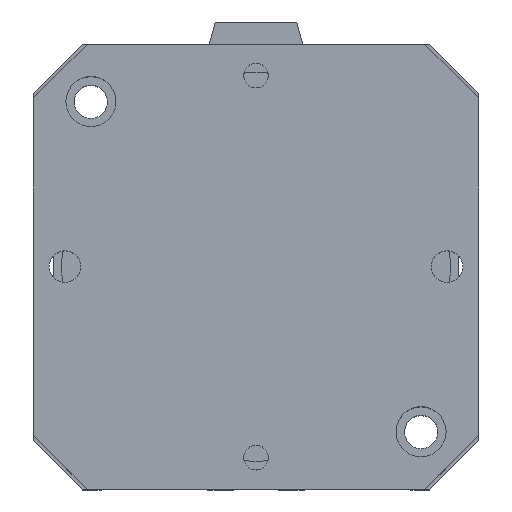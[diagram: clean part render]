
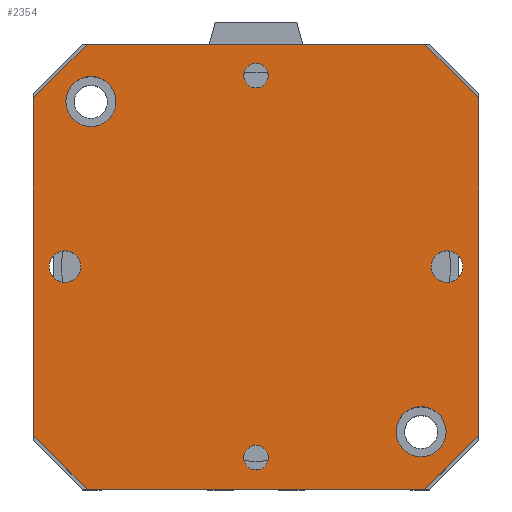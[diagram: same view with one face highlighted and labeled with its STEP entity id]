
A CAD part, top view. The second image highlights one B-rep face of the part: STEP entity #2354.
In plain terms, the highlighted planar face has unit normal (0, 0, 1).
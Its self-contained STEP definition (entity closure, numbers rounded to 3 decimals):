
#221=LINE('',#3869,#429);
#223=LINE('',#3873,#431);
#225=LINE('',#3877,#433);
#227=LINE('',#3881,#435);
#229=LINE('',#3885,#437);
#231=LINE('',#3889,#439);
#233=LINE('',#3893,#441);
#235=LINE('',#3896,#443);
#429=VECTOR('',#3196,91.);
#431=VECTOR('',#3200,20.506);
#433=VECTOR('',#3204,91.);
#435=VECTOR('',#3208,20.506);
#437=VECTOR('',#3212,91.);
#439=VECTOR('',#3216,20.506);
#441=VECTOR('',#3220,91.);
#443=VECTOR('',#3224,20.506);
#537=PLANE('',#2580);
#626=FACE_BOUND('',#956,.T.);
#627=FACE_BOUND('',#957,.T.);
#628=FACE_BOUND('',#958,.T.);
#629=FACE_BOUND('',#959,.T.);
#630=FACE_BOUND('',#960,.T.);
#631=FACE_BOUND('',#961,.T.);
#632=FACE_BOUND('',#962,.T.);
#956=EDGE_LOOP('',(#2134));
#957=EDGE_LOOP('',(#2135));
#958=EDGE_LOOP('',(#2136));
#959=EDGE_LOOP('',(#2137));
#960=EDGE_LOOP('',(#2138));
#961=EDGE_LOOP('',(#2139));
#962=EDGE_LOOP('',(#2140,#2141,#2142,#2143,#2144,#2145,#2146,#2147));
#1035=CIRCLE('',#2536,3.324);
#1037=CIRCLE('',#2539,3.324);
#1042=CIRCLE('',#2547,4.25);
#1046=CIRCLE('',#2554,4.25);
#1055=CIRCLE('',#2569,6.75);
#1056=CIRCLE('',#2571,6.75);
#1235=VERTEX_POINT('',#3787);
#1237=VERTEX_POINT('',#3792);
#1242=VERTEX_POINT('',#3805);
#1246=VERTEX_POINT('',#3816);
#1265=VERTEX_POINT('',#3860);
#1266=VERTEX_POINT('',#3863);
#1267=VERTEX_POINT('',#3866);
#1268=VERTEX_POINT('',#3868);
#1269=VERTEX_POINT('',#3872);
#1270=VERTEX_POINT('',#3876);
#1271=VERTEX_POINT('',#3880);
#1272=VERTEX_POINT('',#3884);
#1273=VERTEX_POINT('',#3888);
#1274=VERTEX_POINT('',#3892);
#1521=EDGE_CURVE('',#1235,#1235,#1035,.T.);
#1523=EDGE_CURVE('',#1237,#1237,#1037,.T.);
#1528=EDGE_CURVE('',#1242,#1242,#1042,.T.);
#1532=EDGE_CURVE('',#1246,#1246,#1046,.T.);
#1551=EDGE_CURVE('',#1265,#1265,#1055,.T.);
#1552=EDGE_CURVE('',#1266,#1266,#1056,.T.);
#1554=EDGE_CURVE('',#1268,#1267,#221,.T.);
#1556=EDGE_CURVE('',#1269,#1268,#223,.T.);
#1558=EDGE_CURVE('',#1270,#1269,#225,.T.);
#1560=EDGE_CURVE('',#1271,#1270,#227,.T.);
#1562=EDGE_CURVE('',#1272,#1271,#229,.T.);
#1564=EDGE_CURVE('',#1273,#1272,#231,.T.);
#1566=EDGE_CURVE('',#1274,#1273,#233,.T.);
#1568=EDGE_CURVE('',#1267,#1274,#235,.T.);
#2134=ORIENTED_EDGE('',*,*,#1521,.T.);
#2135=ORIENTED_EDGE('',*,*,#1523,.T.);
#2136=ORIENTED_EDGE('',*,*,#1528,.T.);
#2137=ORIENTED_EDGE('',*,*,#1532,.T.);
#2138=ORIENTED_EDGE('',*,*,#1551,.T.);
#2139=ORIENTED_EDGE('',*,*,#1552,.T.);
#2140=ORIENTED_EDGE('',*,*,#1568,.T.);
#2141=ORIENTED_EDGE('',*,*,#1566,.T.);
#2142=ORIENTED_EDGE('',*,*,#1564,.T.);
#2143=ORIENTED_EDGE('',*,*,#1562,.T.);
#2144=ORIENTED_EDGE('',*,*,#1560,.T.);
#2145=ORIENTED_EDGE('',*,*,#1558,.T.);
#2146=ORIENTED_EDGE('',*,*,#1556,.T.);
#2147=ORIENTED_EDGE('',*,*,#1554,.T.);
#2354=ADVANCED_FACE('',(#626,#627,#628,#629,#630,#631,#632),#537,.T.);
#2536=AXIS2_PLACEMENT_3D('',#3788,#3111,#3112);
#2539=AXIS2_PLACEMENT_3D('',#3793,#3117,#3118);
#2547=AXIS2_PLACEMENT_3D('',#3806,#3133,#3134);
#2554=AXIS2_PLACEMENT_3D('',#3817,#3147,#3148);
#2569=AXIS2_PLACEMENT_3D('',#3861,#3187,#3188);
#2571=AXIS2_PLACEMENT_3D('',#3864,#3191,#3192);
#2580=AXIS2_PLACEMENT_3D('',#3897,#3225,#3226);
#3111=DIRECTION('center_axis',(0.,0.,-1.));
#3112=DIRECTION('ref_axis',(1.,0.,0.));
#3117=DIRECTION('center_axis',(0.,0.,-1.));
#3118=DIRECTION('ref_axis',(1.,0.,0.));
#3133=DIRECTION('center_axis',(0.,0.,-1.));
#3134=DIRECTION('ref_axis',(1.,0.,0.));
#3147=DIRECTION('center_axis',(0.,0.,-1.));
#3148=DIRECTION('ref_axis',(1.,0.,0.));
#3187=DIRECTION('center_axis',(0.,0.,-1.));
#3188=DIRECTION('ref_axis',(-1.,0.,0.));
#3191=DIRECTION('center_axis',(0.,0.,-1.));
#3192=DIRECTION('ref_axis',(-1.,0.,0.));
#3196=DIRECTION('',(0.,1.,0.));
#3200=DIRECTION('',(0.707,0.707,0.));
#3204=DIRECTION('',(1.,0.,0.));
#3208=DIRECTION('',(0.707,-0.707,0.));
#3212=DIRECTION('',(0.,-1.,0.));
#3216=DIRECTION('',(-0.707,-0.707,0.));
#3220=DIRECTION('',(-1.,0.,0.));
#3224=DIRECTION('',(-0.707,0.707,0.));
#3225=DIRECTION('center_axis',(0.,0.,1.));
#3226=DIRECTION('ref_axis',(1.,0.,0.));
#3787=CARTESIAN_POINT('',(-54.824,0.,90.75));
#3788=CARTESIAN_POINT('Origin',(-51.5,0.,90.75));
#3792=CARTESIAN_POINT('',(48.177,0.,90.75));
#3793=CARTESIAN_POINT('Origin',(51.5,0.,90.75));
#3805=CARTESIAN_POINT('',(-4.25,51.5,90.75));
#3806=CARTESIAN_POINT('Origin',(0.,51.5,90.75));
#3816=CARTESIAN_POINT('',(-4.25,-51.5,90.75));
#3817=CARTESIAN_POINT('Origin',(0.,-51.5,90.75));
#3860=CARTESIAN_POINT('',(-37.75,-44.5,90.75));
#3861=CARTESIAN_POINT('Origin',(-44.5,-44.5,90.75));
#3863=CARTESIAN_POINT('',(51.25,44.5,90.75));
#3864=CARTESIAN_POINT('Origin',(44.5,44.5,90.75));
#3866=CARTESIAN_POINT('',(60.,45.5,90.75));
#3868=CARTESIAN_POINT('',(60.,-45.5,90.75));
#3869=CARTESIAN_POINT('',(60.,45.5,90.75));
#3872=CARTESIAN_POINT('',(45.5,-60.,90.75));
#3873=CARTESIAN_POINT('',(60.,-45.5,90.75));
#3876=CARTESIAN_POINT('',(-45.5,-60.,90.75));
#3877=CARTESIAN_POINT('',(45.5,-60.,90.75));
#3880=CARTESIAN_POINT('',(-60.,-45.5,90.75));
#3881=CARTESIAN_POINT('',(-45.5,-60.,90.75));
#3884=CARTESIAN_POINT('',(-60.,45.5,90.75));
#3885=CARTESIAN_POINT('',(-60.,-45.5,90.75));
#3888=CARTESIAN_POINT('',(-45.5,60.,90.75));
#3889=CARTESIAN_POINT('',(-60.,45.5,90.75));
#3892=CARTESIAN_POINT('',(45.5,60.,90.75));
#3893=CARTESIAN_POINT('',(-45.5,60.,90.75));
#3896=CARTESIAN_POINT('',(45.5,60.,90.75));
#3897=CARTESIAN_POINT('Origin',(0.,0.,90.75));
